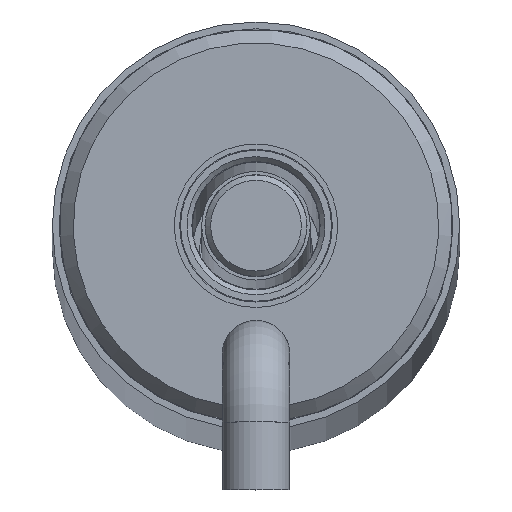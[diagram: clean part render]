
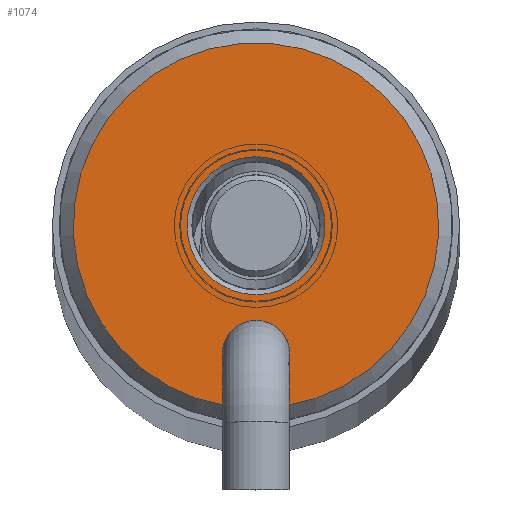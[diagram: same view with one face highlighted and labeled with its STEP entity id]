
A CAD part, top view. The second image highlights one B-rep face of the part: STEP entity #1074.
In plain terms, the highlighted planar face has unit normal (0, 0, 1).
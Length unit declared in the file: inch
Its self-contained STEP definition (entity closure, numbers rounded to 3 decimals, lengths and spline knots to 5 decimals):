
#78=FACE_BOUND('',#214,.T.);
#116=PLANE('',#1254);
#145=FACE_OUTER_BOUND('',#213,.T.);
#213=EDGE_LOOP('',(#719,#720,#721,#722,#723));
#214=EDGE_LOOP('',(#724));
#294=LINE('',#1700,#344);
#297=LINE('',#1710,#347);
#344=VECTOR('',#1401,0.3937);
#347=VECTOR('',#1406,0.3937);
#396=CIRCLE('',#1249,0.0625);
#398=CIRCLE('',#1251,0.0625);
#399=CIRCLE('',#1255,0.3365);
#400=CIRCLE('',#1256,0.127);
#448=VERTEX_POINT('',#1686);
#449=VERTEX_POINT('',#1688);
#452=VERTEX_POINT('',#1694);
#453=VERTEX_POINT('',#1699);
#456=VERTEX_POINT('',#1709);
#457=VERTEX_POINT('',#1712);
#550=EDGE_CURVE('',#449,#448,#396,.T.);
#554=EDGE_CURVE('',#448,#452,#398,.T.);
#555=EDGE_CURVE('',#453,#449,#294,.T.);
#559=EDGE_CURVE('',#452,#456,#297,.T.);
#560=EDGE_CURVE('',#453,#456,#399,.T.);
#561=EDGE_CURVE('',#457,#457,#400,.T.);
#719=ORIENTED_EDGE('',*,*,#550,.T.);
#720=ORIENTED_EDGE('',*,*,#554,.T.);
#721=ORIENTED_EDGE('',*,*,#559,.T.);
#722=ORIENTED_EDGE('',*,*,#560,.F.);
#723=ORIENTED_EDGE('',*,*,#555,.T.);
#724=ORIENTED_EDGE('',*,*,#561,.T.);
#1074=ADVANCED_FACE('',(#145,#78),#116,.T.);
#1249=AXIS2_PLACEMENT_3D('',#1689,#1389,#1390);
#1251=AXIS2_PLACEMENT_3D('',#1696,#1395,#1396);
#1254=AXIS2_PLACEMENT_3D('',#1708,#1404,#1405);
#1255=AXIS2_PLACEMENT_3D('',#1711,#1407,#1408);
#1256=AXIS2_PLACEMENT_3D('',#1713,#1409,#1410);
#1389=DIRECTION('center_axis',(0.,0.,
-1.));
#1390=DIRECTION('ref_axis',(1.,0.,0.));
#1395=DIRECTION('center_axis',(0.,0.,
-1.));
#1396=DIRECTION('ref_axis',(1.,0.,0.));
#1401=DIRECTION('',(0.,1.,0.));
#1404=DIRECTION('center_axis',(0.,0.,
1.));
#1405=DIRECTION('ref_axis',(1.,0.,0.));
#1406=DIRECTION('',(0.,-1.,0.));
#1407=DIRECTION('center_axis',(0.,0.,
-1.));
#1408=DIRECTION('ref_axis',(-1.,0.,0.));
#1409=DIRECTION('center_axis',(0.,0.,
-1.));
#1410=DIRECTION('ref_axis',(-1.,0.,0.));
#1686=CARTESIAN_POINT('',(-0.0625,-0.237,24.99));
#1688=CARTESIAN_POINT('',(-0.053,-0.27012,24.99));
#1689=CARTESIAN_POINT('Origin',(0.,-0.237,24.99));
#1694=CARTESIAN_POINT('',(0.053,-0.27012,24.99));
#1696=CARTESIAN_POINT('Origin',(0.,-0.237,24.99));
#1699=CARTESIAN_POINT('',(-0.053,-0.3323,24.99));
#1700=CARTESIAN_POINT('',(-0.053,0.04975,24.99));
#1708=CARTESIAN_POINT('Origin',(0.,0.3365,24.99));
#1709=CARTESIAN_POINT('',(0.053,-0.3323,24.99));
#1710=CARTESIAN_POINT('',(0.053,-0.01055,24.99));
#1711=CARTESIAN_POINT('Origin',(0.,0.,
24.99));
#1712=CARTESIAN_POINT('',(0.,-0.127,24.99));
#1713=CARTESIAN_POINT('Origin',(0.,0.,
24.99));
